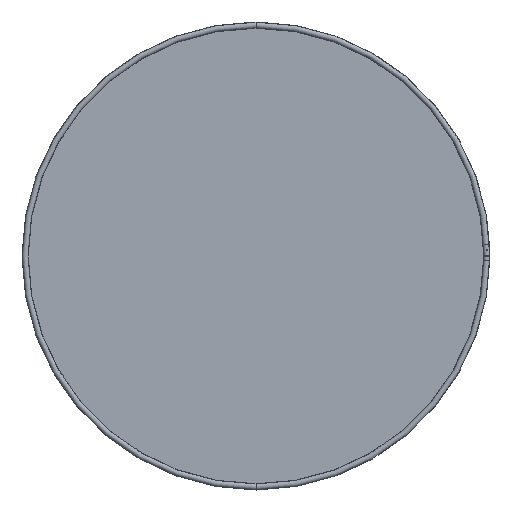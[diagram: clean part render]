
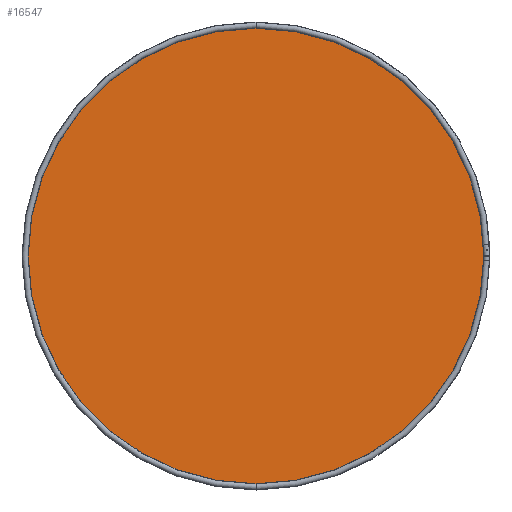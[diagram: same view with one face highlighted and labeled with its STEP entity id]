
A CAD part, front view. The second image highlights one B-rep face of the part: STEP entity #16547.
In plain terms, the highlighted planar face has unit normal (0, -1, 0) as drawn and (0, 0, -1) by its records, which use the part's own axes.
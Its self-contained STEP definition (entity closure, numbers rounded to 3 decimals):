
#161 = EDGE_CURVE ( 'NONE', #412, #11999, #17997, .T. ) ;
#412 = VERTEX_POINT ( 'NONE', #19198 ) ;
#2073 = FACE_OUTER_BOUND ( 'NONE', #18465, .T. ) ;
#3245 = DIRECTION ( 'NONE',  ( 1., 0., 0. ) ) ;
#4413 = CIRCLE ( 'NONE', #13559, 592.462 ) ;
#5745 = PLANE ( 'NONE',  #13562 ) ;
#7016 = DIRECTION ( 'NONE',  ( 0., 0., 1. ) ) ;
#8271 = ORIENTED_EDGE ( 'NONE', *, *, #161, .F. ) ;
#9048 = DIRECTION ( 'NONE',  ( 1., 0., 0. ) ) ;
#9841 = CARTESIAN_POINT ( 'NONE',  ( 592., 0., -10. ) ) ;
#11440 = DIRECTION ( 'NONE',  ( 0., 0., 1. ) ) ;
#11999 = VERTEX_POINT ( 'NONE', #15601 ) ;
#13559 = AXIS2_PLACEMENT_3D ( 'NONE', #9841, #11440, #15101 ) ;
#13562 = AXIS2_PLACEMENT_3D ( 'NONE', #19987, #21358, #9048 ) ;
#15101 = DIRECTION ( 'NONE',  ( 1., 0., 0. ) ) ;
#15467 = AXIS2_PLACEMENT_3D ( 'NONE', #17180, #7016, #3245 ) ;
#15601 = CARTESIAN_POINT ( 'NONE',  ( 1184.462, 0., -10. ) ) ;
#16547 = ADVANCED_FACE ( 'NONE', ( #2073 ), #5745, .F. ) ;
#17180 = CARTESIAN_POINT ( 'NONE',  ( 592., 0., -10. ) ) ;
#17997 = CIRCLE ( 'NONE', #15467, 592.462 ) ;
#18041 = EDGE_CURVE ( 'NONE', #11999, #412, #4413, .T. ) ;
#18465 = EDGE_LOOP ( 'NONE', ( #8271, #20199 ) ) ;
#19198 = CARTESIAN_POINT ( 'NONE',  ( -0.462, 0., -10. ) ) ;
#19987 = CARTESIAN_POINT ( 'NONE',  ( 592., 0., -10. ) ) ;
#20199 = ORIENTED_EDGE ( 'NONE', *, *, #18041, .F. ) ;
#21358 = DIRECTION ( 'NONE',  ( 0., 0., 1. ) ) ;
